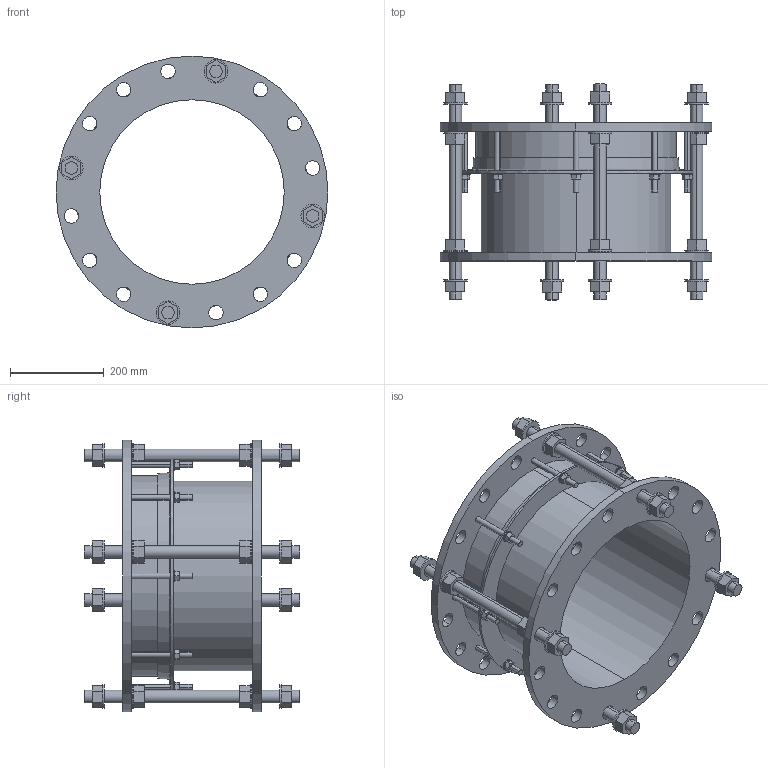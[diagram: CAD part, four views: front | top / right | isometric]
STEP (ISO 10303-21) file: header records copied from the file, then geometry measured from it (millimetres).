
FILE_DESCRIPTION((''),'2;1');
FILE_NAME('LO2_DJ_BIM_ASM','2020-11-27T',('mfairey'),('Glynwed Pipe Systems'),'CREO PARAMETRIC BY PTC INC, 2016130','CREO PARAMETRIC BY PTC INC, 2016130','');
FILE_SCHEMA(('CONFIG_CONTROL_DESIGN'));
Length unit declared in the file: millimetre
Products named in the file (3): DJ_AF0; TIE_BOLT_BIM; LO2_DJ_BIM_ASM
Assembly tree (5 placements, depth 2):
  LO2_DJ_BIM_ASM
    DJ_AF0
    TIE_BOLT_BIM  x4
Bounding box: 580 x 460 x 580 mm (x, y, z)
Volume: 10066030 mm3; surface area: 1696053.2 mm2
Topology: 5 solids, 5 shells, 444 faces, 1086 edges, 718 vertices
Faces by surface type: plane 238, cylinder 202, cone 4
Entity records: 9209 total; most frequent: CARTESIAN_POINT 1957, DIRECTION 1566, ORIENTED_EDGE 1416, EDGE_CURVE 708, AXIS2_PLACEMENT_3D 598, VERTEX_POINT 466, EDGE_LOOP 388, VECTOR 370
